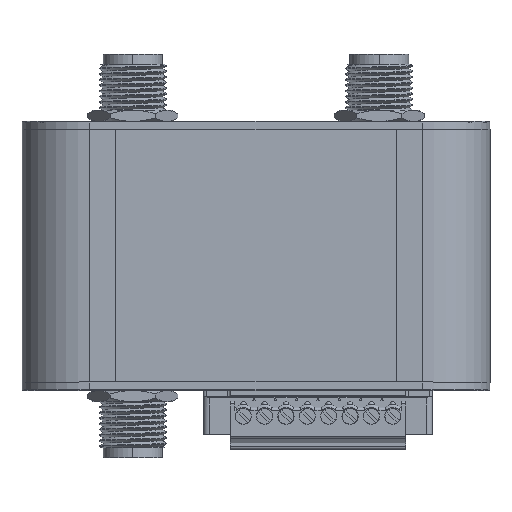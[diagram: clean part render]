
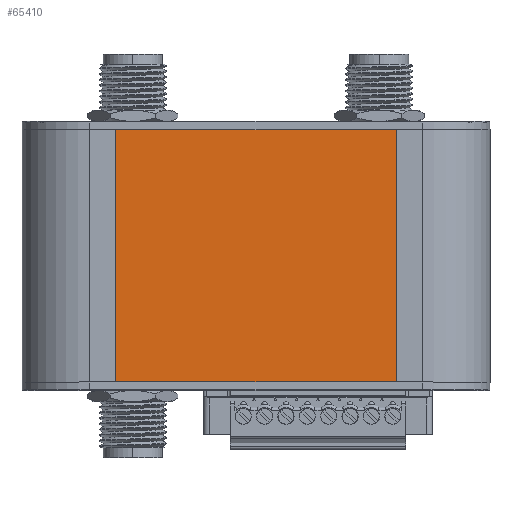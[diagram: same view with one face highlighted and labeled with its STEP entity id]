
A CAD part, top view. The second image highlights one B-rep face of the part: STEP entity #65410.
In plain terms, the highlighted planar face has unit normal (0, 0, 1).
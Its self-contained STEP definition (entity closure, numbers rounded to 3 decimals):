
#598 = VERTEX_POINT ( 'NONE', #77999 ) ;
#1315 = DIRECTION ( 'NONE',  ( 0., 1., 0. ) ) ;
#1372 = VERTEX_POINT ( 'NONE', #16148 ) ;
#4892 = VERTEX_POINT ( 'NONE', #117752 ) ;
#11138 = ORIENTED_EDGE ( 'NONE', *, *, #93938, .F. ) ;
#15221 = CARTESIAN_POINT ( 'NONE',  ( -170.458, 22.294, 46.893 ) ) ;
#16148 = CARTESIAN_POINT ( 'NONE',  ( -170.458, 67.294, 46.893 ) ) ;
#18913 = VERTEX_POINT ( 'NONE', #83456 ) ;
#26067 = AXIS2_PLACEMENT_3D ( 'NONE', #76970, #62955, #49119 ) ;
#26313 = EDGE_CURVE ( 'NONE', #18913, #1372, #43114, .T. ) ;
#27492 = VECTOR ( 'NONE', #89987, 1000. ) ;
#27532 = DIRECTION ( 'NONE',  ( -1., 0., 0. ) ) ;
#41503 = CARTESIAN_POINT ( 'NONE',  ( -220.458, 67.294, 46.893 ) ) ;
#41587 = ORIENTED_EDGE ( 'NONE', *, *, #41893, .T. ) ;
#41893 = EDGE_CURVE ( 'NONE', #1372, #598, #55413, .T. ) ;
#42110 = ORIENTED_EDGE ( 'NONE', *, *, #26313, .T. ) ;
#43114 = LINE ( 'NONE', #15221, #129509 ) ;
#49119 = DIRECTION ( 'NONE',  ( 0., 1., 0. ) ) ;
#55413 = LINE ( 'NONE', #41503, #70917 ) ;
#57986 = ORIENTED_EDGE ( 'NONE', *, *, #91423, .F. ) ;
#62955 = DIRECTION ( 'NONE',  ( 0., 0., -1. ) ) ;
#65410 = ADVANCED_FACE ( 'NONE', ( #116435 ), #69608, .F. ) ;
#67486 = VECTOR ( 'NONE', #107498, 1000. ) ;
#69608 = PLANE ( 'NONE',  #26067 ) ;
#70917 = VECTOR ( 'NONE', #27532, 1000. ) ;
#76970 = CARTESIAN_POINT ( 'NONE',  ( -220.458, 22.294, 46.893 ) ) ;
#77999 = CARTESIAN_POINT ( 'NONE',  ( -220.458, 67.294, 46.893 ) ) ;
#83456 = CARTESIAN_POINT ( 'NONE',  ( -170.458, 22.294, 46.893 ) ) ;
#89987 = DIRECTION ( 'NONE',  ( 0., 1., 0. ) ) ;
#91423 = EDGE_CURVE ( 'NONE', #18913, #4892, #135296, .T. ) ;
#93938 = EDGE_CURVE ( 'NONE', #4892, #598, #117801, .T. ) ;
#103904 = CARTESIAN_POINT ( 'NONE',  ( -220.458, 22.294, 46.893 ) ) ;
#107498 = DIRECTION ( 'NONE',  ( -1., 0., 0. ) ) ;
#115527 = EDGE_LOOP ( 'NONE', ( #41587, #11138, #57986, #42110 ) ) ;
#116435 = FACE_OUTER_BOUND ( 'NONE', #115527, .T. ) ;
#117752 = CARTESIAN_POINT ( 'NONE',  ( -220.458, 22.294, 46.893 ) ) ;
#117801 = LINE ( 'NONE', #103904, #27492 ) ;
#121378 = CARTESIAN_POINT ( 'NONE',  ( -220.458, 22.294, 46.893 ) ) ;
#129509 = VECTOR ( 'NONE', #1315, 1000. ) ;
#135296 = LINE ( 'NONE', #121378, #67486 ) ;
